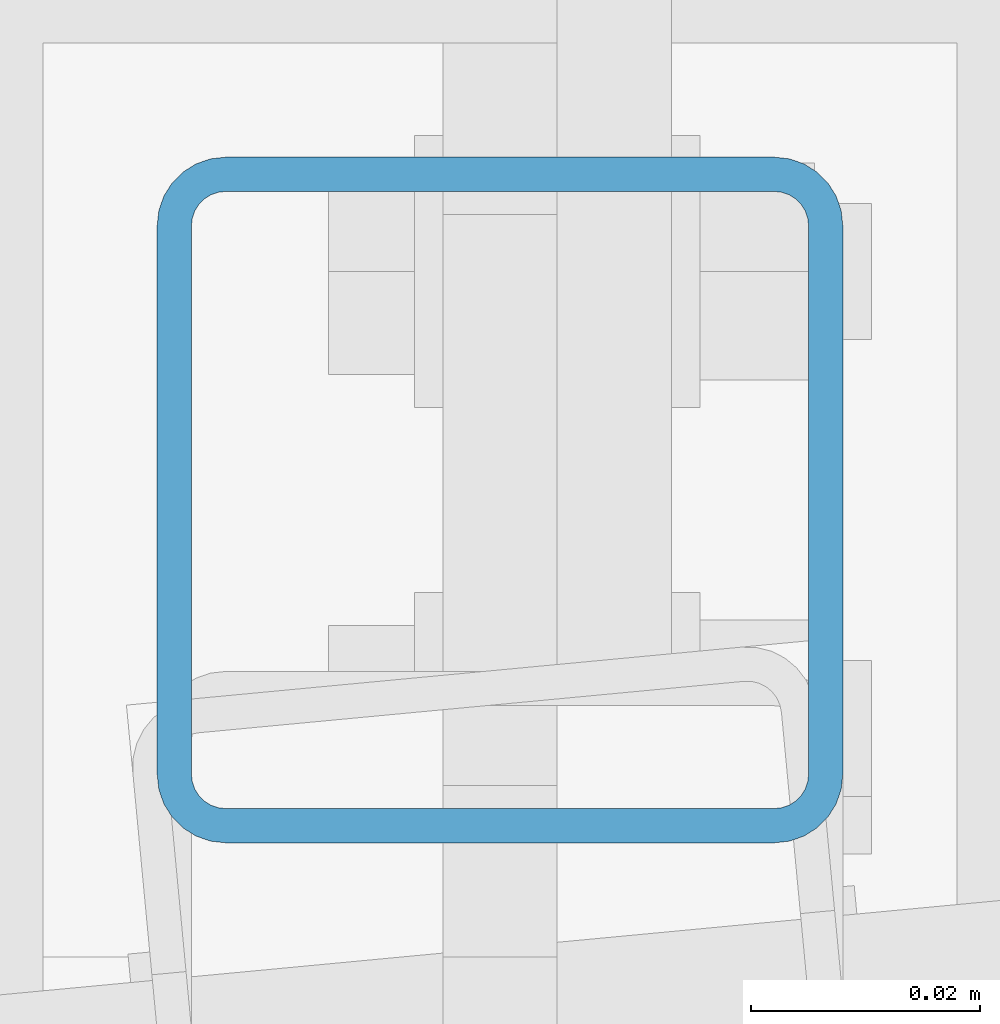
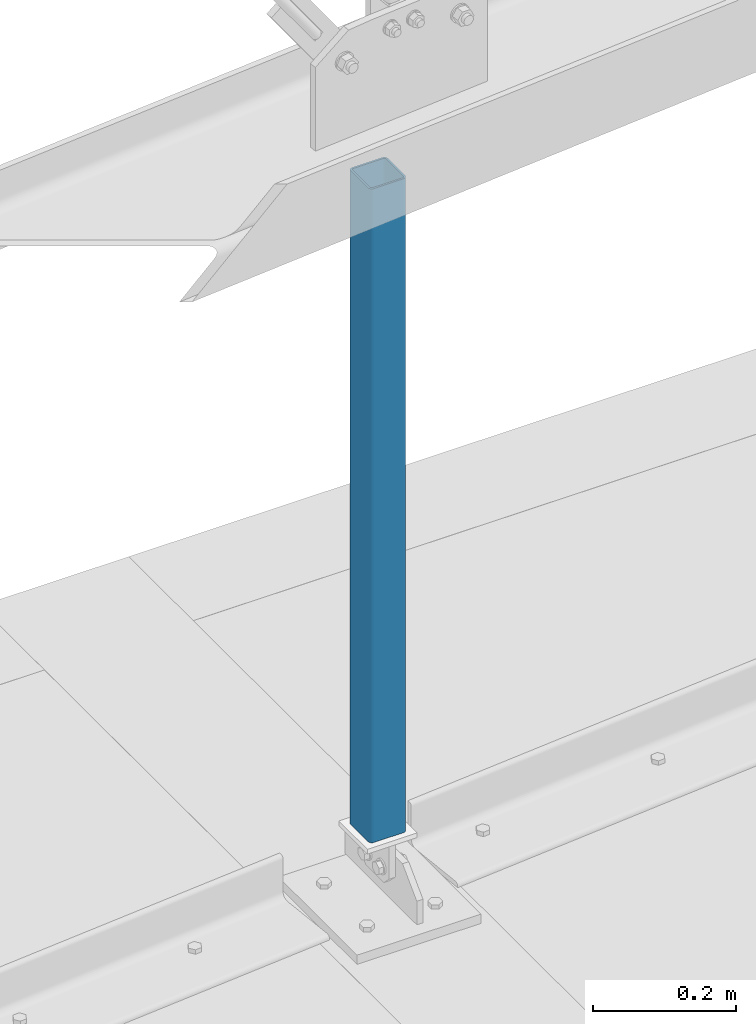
# One storey, part 51 of 271: 1 beam, 1 element without a shape of its own.
"""IFC2X3 building model written with IfcOpenShell, lengths in millimetres."""

from ifc_helpers import new_model, si_unit, frame, origin_with_axes, origin_2d_with_axis, place, context, subcontext, project, spatial, hollow_rectangle, extrude, clip, halfspace, material, type_object, element, aggregate, save


model = new_model("IFC2X3")

# Units and contexts
model_context = context("Model", 3, precision=1e-05, world=origin_with_axes())
body_context = subcontext(model_context, "Body", "Model", "MODEL_VIEW")
ifc_project = project(units=[si_unit("LENGTHUNIT", "METRE", prefix="MILLI"), si_unit("AREAUNIT", "SQUARE_METRE"), si_unit("VOLUMEUNIT", "CUBIC_METRE"), si_unit("MASSUNIT", "GRAM", prefix="KILO"), si_unit("TIMEUNIT", "SECOND"), si_unit("PLANEANGLEUNIT", "RADIAN"), si_unit("SOLIDANGLEUNIT", "STERADIAN"), si_unit("THERMODYNAMICTEMPERATUREUNIT", "DEGREE_CELSIUS"), si_unit("LUMINOUSINTENSITYUNIT", "LUMEN")], contexts=[model_context])

# Site, building, storey
site_placement = place(None, origin_with_axes())
site = spatial("IfcSite", under=ifc_project, at=site_placement, Name="Undefined", CompositionType="ELEMENT")
building_placement = place(site_placement, origin_with_axes())
building = spatial("IfcBuilding", under=site, at=building_placement, Name="Undefined", CompositionType="ELEMENT")
storey_placement = place(building_placement, origin_with_axes())
storey = spatial("IfcBuildingStorey", under=building, at=storey_placement, Name="Undefined", CompositionType="ELEMENT", Elevation=0.0)

# Assembly, beam
assembly_placement = place(storey_placement, origin_with_axes())
assembly = element("IfcElementAssembly", 1, at=assembly_placement, inside=storey, AssemblyPlace="NOTDEFINED", PredefinedType="RIGID_FRAME")
ifc_material = material(Name="STEEL/S355JR")
beam_type = type_object("IfcBeamType", Name="SHS60*3", PredefinedType="NOTDEFINED")
beam_placement = place(assembly_placement, frame((9528.37568709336, 4050.32498425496, 7.00000000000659), z_axis=(0.0, 1.0, 0.0), x_axis=(0.0, 0.0, 1.0)))
beam = element("IfcBeam", 2, at=beam_placement, type_object=beam_type, material=ifc_material, Name="TĘŻNIK", ObjectType="SHS60*3", context=body_context, shape_type="Clipping", body=[
    clip(clip(extrude(hollow_rectangle(XDim=60.0, YDim=60.0, WallThickness=3.0, InnerFilletRadius=3.0, OuterFilletRadius=6.0, at=origin_2d_with_axis()), frame((1357.3499999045, 0.0, 0.0), z_axis=(-1.0, 0.0, 1.38777878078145e-17), x_axis=(0.0, -1.0, 0.0)), (0.0, 0.0, 1.0), 1357.35), halfspace(frame((1225.749999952, 15.0, 0.0), z_axis=(-1.0, 0.0, 1.38777878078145e-17), x_axis=(0.0, 0.0, 1.0)), True)), halfspace(frame((110.6500000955, 0.0, 1000.0), z_axis=(1.0, 0.0, 0.0), x_axis=(0.0, 1.0, 0.0)), True)),
])
aggregate(assembly, [beam])

save(model, "model.ifc")
